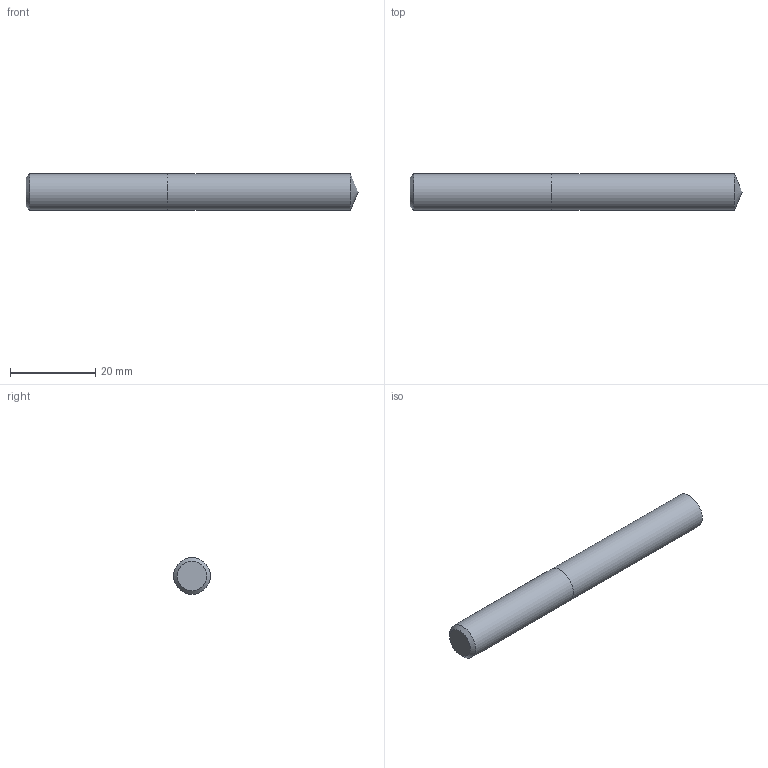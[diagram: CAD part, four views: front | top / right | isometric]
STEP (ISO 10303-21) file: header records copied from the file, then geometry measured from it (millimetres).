
FILE_DESCRIPTION (( 'STEP AP214' ), '1' );
FILE_NAME ('03-2334.STEP', '2022-06-03T06:21:45', ( 'USER' ), ( '' ), 'SwSTEP 2.0', 'SolidWorks 2018', '' );
FILE_SCHEMA (( 'AUTOMOTIVE_DESIGN' ));
Length unit declared in the file: inch
Products named in the file (1): 03-2334
Bounding box: 77.98 x 8.61 x 8.61 mm (x, y, z)
Volume: 4462.5 mm3; surface area: 2284.4 mm2
Topology: 2 solids, 2 shells, 7 faces, 11 edges, 7 vertices
Faces by surface type: plane 3, cylinder 2, cone 2
Full cylindrical faces by diameter (mm): 8.611 x2
Entity records: 214 total; most frequent: DIRECTION 26, CARTESIAN_POINT 18, AXIS2_PLACEMENT_3D 13, EDGE_LOOP 10, ORIENTED_EDGE 10, FACE_OUTER_BOUND 9, LENGTH_MEASURE_WITH_UNIT 7, DIMENSIONAL_EXPONENTS 7
